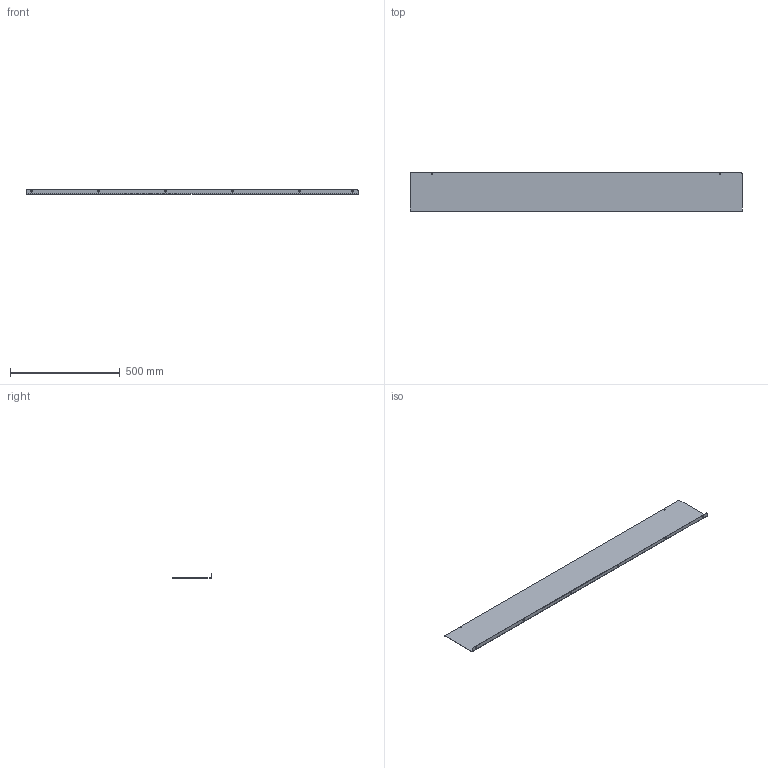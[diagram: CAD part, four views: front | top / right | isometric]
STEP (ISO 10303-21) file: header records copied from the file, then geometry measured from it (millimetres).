
FILE_DESCRIPTION((''),'2;1');
FILE_NAME('C:\Vault_Workspace\Inventor_Dwg\Inv-1\1100BA\WEBSITE\1100BA8060.stp','2015-02-02T15:14:26',('MichaelA'),(''),'Autodesk Inventor 2012','Autodesk Inventor 2012','');
FILE_SCHEMA(('AUTOMOTIVE_DESIGN { 1 0 10303 214 1 1 1 1 }'));
Length unit declared in the file: inch
Products named in the file (1): 1100BA-MASTER
Bounding box: 1511.3 x 177.8 x 19.05 mm (x, y, z)
Volume: 410918.9 mm3; surface area: 593274.3 mm2
Topology: 1 solids, 1 shells, 26 faces, 64 edges, 40 vertices
Faces by surface type: cylinder 14, plane 12
Full cylindrical faces by diameter (mm): 4.496 x2, 7.137 x6
Entity records: 792 total; most frequent: DIRECTION 138, CARTESIAN_POINT 123, ORIENTED_EDGE 112, EDGE_CURVE 56, AXIS2_PLACEMENT_3D 55, EDGE_LOOP 50, VERTEX_POINT 40, CIRCLE 28
